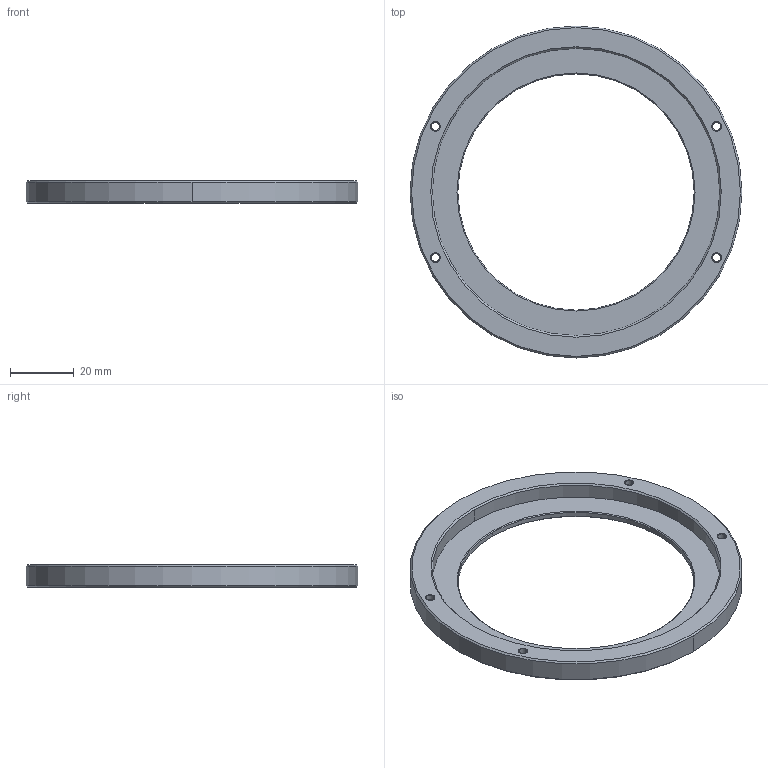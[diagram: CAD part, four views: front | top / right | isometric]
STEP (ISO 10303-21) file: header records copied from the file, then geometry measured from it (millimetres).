
FILE_DESCRIPTION((''),'2;1');
FILE_NAME('ART4BEARINGRING_V-2','2022-08-24T09:27:43',('domen.bizjak'),('Audax d.o.o.'),'CREO PARAMETRIC BY PTC INC, 2021184','CREO PARAMETRIC BY PTC INC, 2021184','');
FILE_SCHEMA(('AP242_MANAGED_MODEL_BASED_3D_ENGINEERING_MIM_LF { 1 0 10303 442 1 1 4 }'));
Length unit declared in the file: millimetre
Products named in the file (1): ART4BEARINGRING_V-2
Bounding box: 104 x 104 x 7 mm (x, y, z)
Volume: 18778.4 mm3; surface area: 12642.3 mm2
Topology: 1 solids, 5 shells, 35 faces, 104 edges, 88 vertices
Faces by surface type: cylinder 22, cone 10, plane 3
Entity records: 2567 total; most frequent: COLOUR_RGB 321, DIRECTION 250, CARTESIAN_POINT 211, ORIENTED_EDGE 156, PRESENTATION_STYLE_ASSIGNMENT 113, STYLED_ITEM 113, CURVE_STYLE 106, AXIS2_PLACEMENT_3D 100
